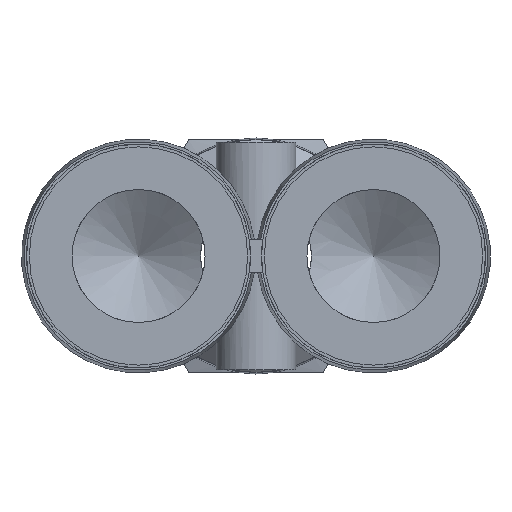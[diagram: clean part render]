
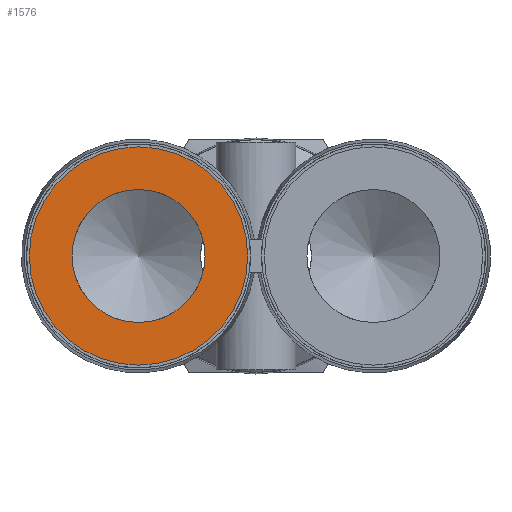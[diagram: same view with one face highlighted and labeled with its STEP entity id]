
A CAD part, front view. The second image highlights one B-rep face of the part: STEP entity #1576.
In plain terms, the highlighted planar face has unit normal (0, -1, 0).
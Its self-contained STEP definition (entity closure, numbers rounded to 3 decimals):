
#290=FACE_BOUND('',#475,.T.);
#315=PLANE('',#1759);
#381=FACE_OUTER_BOUND('',#474,.T.);
#474=EDGE_LOOP('',(#1343,#1344));
#475=EDGE_LOOP('',(#1345,#1346));
#570=CIRCLE('',#1734,6.);
#571=CIRCLE('',#1735,6.);
#584=CIRCLE('',#1757,9.85);
#585=CIRCLE('',#1758,9.85);
#724=VERTEX_POINT('',#2892);
#725=VERTEX_POINT('',#2893);
#737=VERTEX_POINT('',#2934);
#738=VERTEX_POINT('',#2935);
#933=EDGE_CURVE('',#724,#725,#570,.T.);
#934=EDGE_CURVE('',#725,#724,#571,.T.);
#953=EDGE_CURVE('',#737,#738,#584,.T.);
#955=EDGE_CURVE('',#738,#737,#585,.T.);
#1343=ORIENTED_EDGE('',*,*,#953,.F.);
#1344=ORIENTED_EDGE('',*,*,#955,.F.);
#1345=ORIENTED_EDGE('',*,*,#933,.T.);
#1346=ORIENTED_EDGE('',*,*,#934,.T.);
#1576=ADVANCED_FACE('',(#381,#290),#315,.F.);
#1734=AXIS2_PLACEMENT_3D('',#2894,#2083,#2084);
#1735=AXIS2_PLACEMENT_3D('',#2895,#2085,#2086);
#1757=AXIS2_PLACEMENT_3D('',#2936,#2135,#2136);
#1758=AXIS2_PLACEMENT_3D('',#2938,#2138,#2139);
#1759=AXIS2_PLACEMENT_3D('',#2939,#2140,#2141);
#2083=DIRECTION('center_axis',(0.,1.,0.));
#2084=DIRECTION('ref_axis',(1.,0.,0.));
#2085=DIRECTION('center_axis',(0.,1.,0.));
#2086=DIRECTION('ref_axis',(1.,0.,0.));
#2135=DIRECTION('center_axis',(0.,1.,0.));
#2136=DIRECTION('ref_axis',(-1.,0.,0.));
#2138=DIRECTION('center_axis',(0.,1.,0.));
#2139=DIRECTION('ref_axis',(-1.,0.,0.));
#2140=DIRECTION('center_axis',(0.,1.,0.));
#2141=DIRECTION('ref_axis',(0.,0.,-1.));
#2892=CARTESIAN_POINT('',(-4.6,-21.,0.));
#2893=CARTESIAN_POINT('',(-16.6,-21.,0.));
#2894=CARTESIAN_POINT('Origin',(-10.6,-21.,0.));
#2895=CARTESIAN_POINT('Origin',(-10.6,-21.,0.));
#2934=CARTESIAN_POINT('',(-20.45,-21.,0.));
#2935=CARTESIAN_POINT('',(-0.75,-21.,0.));
#2936=CARTESIAN_POINT('Origin',(-10.6,-21.,0.));
#2938=CARTESIAN_POINT('Origin',(-10.6,-21.,0.));
#2939=CARTESIAN_POINT('Origin',(-10.6,-21.,0.));
